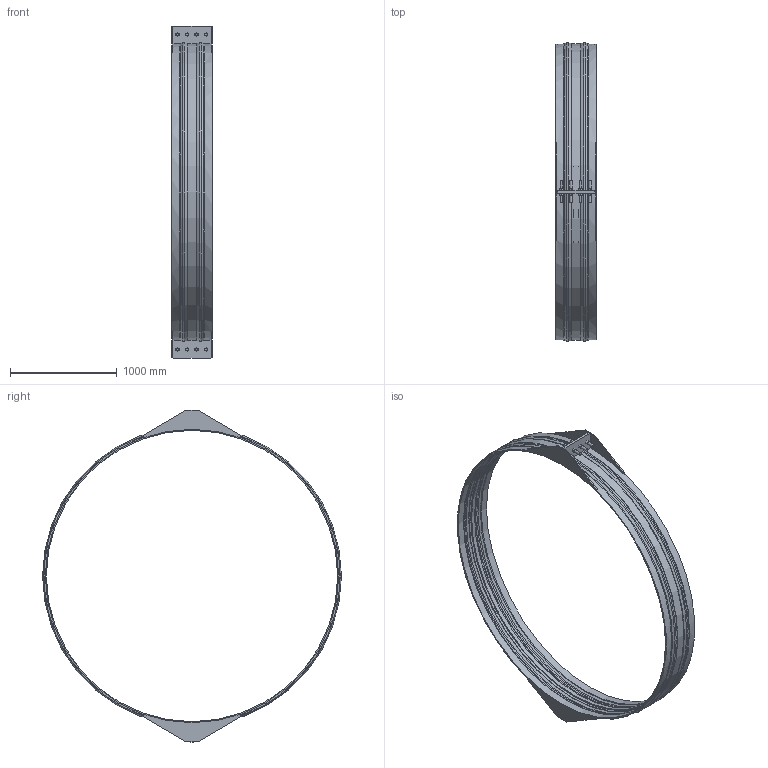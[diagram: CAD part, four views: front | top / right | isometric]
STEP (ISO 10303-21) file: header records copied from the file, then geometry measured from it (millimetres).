
FILE_DESCRIPTION(/* description */ ('VIC RESTRAINED COUPLING STYLE 233 (FLEX) (BRD)','CAx-IF Rec.Pracs.---Representation and Presentation of Product Manufacturing Information (PMI)---4.0---2014-10-13'),/* implementation_level */ '2;1');
FILE_NAME(/* name */ 'C:\Users\Vjadhav\Desktop\CAD for Inventor\Test for STEP\Vivek\Adsk_Inventor_Bolted Sleeve_iParts\STEP\Victaulic_VBSP_Coupling Flexible Restrained_Style 233 (BRD)\Victaulic_VBSP_Coupling Flexible Restrained_Style 233 (BRD)_100psi_108 (2700).stp',/* time_stamp */ '2020-09-24T12:31:55+05:00',/* author */ ('Vjadhav'),/* organization */ ('Victaulic'),/* preprocessor_version */ 'ST-DEVELOPER v17.2',/* originating_system */ 'Autodesk Inventor 2019',/* authorisation */ '');
FILE_SCHEMA (('AP242_MANAGED_MODEL_BASED_3D_ENGINEERING_MIM_LF { 1 0 10303 442 1 1 4 }'));
Length unit declared in the file: inch
Products named in the file (1): Style_233_Type_2_100psi-108.0
Bounding box: 374.65 x 2795.29 x 3105.15 mm (x, y, z)
Volume: 52753207.5 mm3; surface area: 8084578.2 mm2
Topology: 1 solids, 1 shells, 239 faces, 625 edges, 422 vertices
Faces by surface type: plane 166, cylinder 43, torus 18, cone 12
Full cylindrical faces by diameter (mm): 25.4 x16, 2724.15 x1, 2743.2 x2, 2749.55 x2
Entity records: 7896 total; most frequent: CARTESIAN_POINT 1496, DIRECTION 1259, ORIENTED_EDGE 1250, EDGE_CURVE 625, LINE 449, VECTOR 449, VERTEX_POINT 422, AXIS2_PLACEMENT_3D 405
